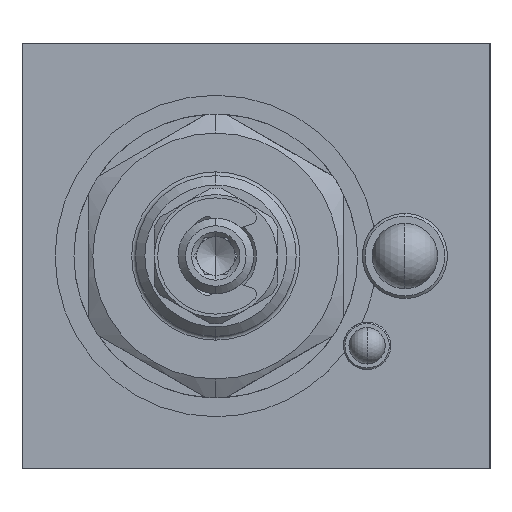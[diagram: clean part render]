
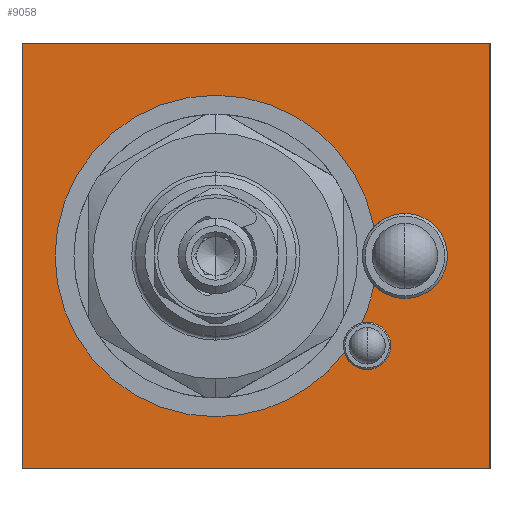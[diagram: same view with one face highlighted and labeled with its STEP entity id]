
A CAD part, left-side view. The second image highlights one B-rep face of the part: STEP entity #9058.
In plain terms, the highlighted planar face has unit normal (-1, 0, 0).
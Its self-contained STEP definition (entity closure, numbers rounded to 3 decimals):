
#179 = VERTEX_POINT ( 'NONE', #7887 ) ;
#244 = EDGE_CURVE ( 'NONE', #7691, #1845, #16567, .T. ) ;
#663 = CARTESIAN_POINT ( 'NONE',  ( 0., -24.75, -22.5 ) ) ;
#801 = CIRCLE ( 'NONE', #4471, 17. ) ;
#817 = CARTESIAN_POINT ( 'NONE',  ( 0., -9.35, -10.2 ) ) ;
#844 = VERTEX_POINT ( 'NONE', #2666 ) ;
#1023 = CARTESIAN_POINT ( 'NONE',  ( 0., -15.75, 0. ) ) ;
#1039 = EDGE_CURVE ( 'NONE', #12304, #12373, #12468, .T. ) ;
#1060 = DIRECTION ( 'NONE',  ( -1., 0., 0. ) ) ;
#1146 = DIRECTION ( 'NONE',  ( -1., 0., 0. ) ) ;
#1174 = DIRECTION ( 'NONE',  ( 0., 0., 1. ) ) ;
#1512 = CARTESIAN_POINT ( 'NONE',  ( 0., -12.469, -3.08 ) ) ;
#1530 = EDGE_CURVE ( 'NONE', #2289, #12304, #7897, .T. ) ;
#1692 = CIRCLE ( 'NONE', #6043, 2.5 ) ;
#1845 = VERTEX_POINT ( 'NONE', #6510 ) ;
#1938 = DIRECTION ( 'NONE',  ( 0., 0., 1. ) ) ;
#2112 = CARTESIAN_POINT ( 'NONE',  ( 0., -12.469, 3.08 ) ) ;
#2131 = DIRECTION ( 'NONE',  ( 0., 0., 1. ) ) ;
#2193 = DIRECTION ( 'NONE',  ( -1., 0., 0. ) ) ;
#2265 = VERTEX_POINT ( 'NONE', #7962 ) ;
#2289 = VERTEX_POINT ( 'NONE', #13359 ) ;
#2313 = CARTESIAN_POINT ( 'NONE',  ( 0., 24.75, -22.5 ) ) ;
#2370 = CARTESIAN_POINT ( 'NONE',  ( 0., -15.75, 0. ) ) ;
#2383 = CARTESIAN_POINT ( 'NONE',  ( 0., 24.75, 22.5 ) ) ;
#2522 = ORIENTED_EDGE ( 'NONE', *, *, #5280, .F. ) ;
#2666 = CARTESIAN_POINT ( 'NONE',  ( 0., -11.75, -7. ) ) ;
#2855 = ORIENTED_EDGE ( 'NONE', *, *, #6080, .F. ) ;
#2883 = VERTEX_POINT ( 'NONE', #14818 ) ;
#3132 = ORIENTED_EDGE ( 'NONE', *, *, #16430, .F. ) ;
#3369 = AXIS2_PLACEMENT_3D ( 'NONE', #12280, #12149, #6752 ) ;
#3382 = PLANE ( 'NONE',  #16187 ) ;
#3438 = VECTOR ( 'NONE', #7776, 1000. ) ;
#3817 = EDGE_CURVE ( 'NONE', #11186, #11483, #11941, .T. ) ;
#3977 = AXIS2_PLACEMENT_3D ( 'NONE', #5910, #5565, #4252 ) ;
#4252 = DIRECTION ( 'NONE',  ( 0., 0., 1. ) ) ;
#4275 = AXIS2_PLACEMENT_3D ( 'NONE', #2370, #1146, #13547 ) ;
#4300 = LINE ( 'NONE', #10409, #3438 ) ;
#4398 = EDGE_CURVE ( 'NONE', #12373, #14799, #17047, .T. ) ;
#4400 = CARTESIAN_POINT ( 'NONE',  ( 0., -24.75, 22.5 ) ) ;
#4449 = CARTESIAN_POINT ( 'NONE',  ( 0., 4.25, 0. ) ) ;
#4471 = AXIS2_PLACEMENT_3D ( 'NONE', #12989, #13341, #15799 ) ;
#4476 = DIRECTION ( 'NONE',  ( -1., 0., 0. ) ) ;
#5034 = EDGE_CURVE ( 'NONE', #11427, #2289, #801, .T. ) ;
#5127 = ORIENTED_EDGE ( 'NONE', *, *, #244, .F. ) ;
#5148 = EDGE_CURVE ( 'NONE', #1845, #11427, #9170, .T. ) ;
#5280 = EDGE_CURVE ( 'NONE', #11483, #7691, #11356, .T. ) ;
#5483 = VECTOR ( 'NONE', #5600, 1000. ) ;
#5538 = EDGE_CURVE ( 'NONE', #844, #11186, #7407, .T. ) ;
#5565 = DIRECTION ( 'NONE',  ( -1., 0., 0. ) ) ;
#5600 = DIRECTION ( 'NONE',  ( 0., 0., -1. ) ) ;
#5616 = EDGE_CURVE ( 'NONE', #11553, #2883, #4300, .T. ) ;
#5661 = AXIS2_PLACEMENT_3D ( 'NONE', #7936, #7813, #7568 ) ;
#5667 = EDGE_CURVE ( 'NONE', #2265, #11553, #5933, .T. ) ;
#5677 = ORIENTED_EDGE ( 'NONE', *, *, #3817, .F. ) ;
#5691 = CARTESIAN_POINT ( 'NONE',  ( 0., -11.216, -7.058 ) ) ;
#5910 = CARTESIAN_POINT ( 'NONE',  ( 0., -15.75, 0. ) ) ;
#5933 = LINE ( 'NONE', #4400, #5483 ) ;
#6043 = AXIS2_PLACEMENT_3D ( 'NONE', #13292, #12956, #12925 ) ;
#6080 = EDGE_CURVE ( 'NONE', #2883, #179, #15818, .T. ) ;
#6510 = CARTESIAN_POINT ( 'NONE',  ( 0., -15.75, 4.5 ) ) ;
#6752 = DIRECTION ( 'NONE',  ( 0., 0., 1. ) ) ;
#6891 = AXIS2_PLACEMENT_3D ( 'NONE', #17381, #17325, #17265 ) ;
#7407 = CIRCLE ( 'NONE', #3369, 2.5 ) ;
#7568 = DIRECTION ( 'NONE',  ( 0., 0., 1. ) ) ;
#7691 = VERTEX_POINT ( 'NONE', #9652 ) ;
#7776 = DIRECTION ( 'NONE',  ( 0., 1., 0. ) ) ;
#7803 = ORIENTED_EDGE ( 'NONE', *, *, #5034, .F. ) ;
#7813 = DIRECTION ( 'NONE',  ( -1., 0., 0. ) ) ;
#7887 = CARTESIAN_POINT ( 'NONE',  ( 0., 24.75, 22.5 ) ) ;
#7897 = CIRCLE ( 'NONE', #11340, 17. ) ;
#7936 = CARTESIAN_POINT ( 'NONE',  ( 0., -11.75, -9.5 ) ) ;
#7962 = CARTESIAN_POINT ( 'NONE',  ( 0., -24.75, 22.5 ) ) ;
#8092 = VECTOR ( 'NONE', #16409, 1000. ) ;
#8111 = LINE ( 'NONE', #16315, #8092 ) ;
#9046 = CARTESIAN_POINT ( 'NONE',  ( 0., -11.75, -12. ) ) ;
#9058 = ADVANCED_FACE ( 'NONE', ( #15707, #15745 ), #3382, .T. ) ;
#9170 = CIRCLE ( 'NONE', #4275, 4.5 ) ;
#9202 = CARTESIAN_POINT ( 'NONE',  ( 0., 4.25, -17. ) ) ;
#9296 = DIRECTION ( 'NONE',  ( -1., 0., 0. ) ) ;
#9437 = CARTESIAN_POINT ( 'NONE',  ( 0., 4.25, 0. ) ) ;
#9542 = DIRECTION ( 'NONE',  ( 0., 0., 1. ) ) ;
#9652 = CARTESIAN_POINT ( 'NONE',  ( 0., -15.75, -4.5 ) ) ;
#10409 = CARTESIAN_POINT ( 'NONE',  ( 0., -24.75, -22.5 ) ) ;
#10791 = EDGE_LOOP ( 'NONE', ( #15906, #15982, #10870, #7803, #17512, #5127, #2522, #5677, #15004, #11345 ) ) ;
#10870 = ORIENTED_EDGE ( 'NONE', *, *, #1530, .F. ) ;
#10934 = VECTOR ( 'NONE', #1938, 1000. ) ;
#11186 = VERTEX_POINT ( 'NONE', #5691 ) ;
#11340 = AXIS2_PLACEMENT_3D ( 'NONE', #9437, #9296, #9542 ) ;
#11345 = ORIENTED_EDGE ( 'NONE', *, *, #14787, .F. ) ;
#11356 = CIRCLE ( 'NONE', #3977, 4.5 ) ;
#11357 = ORIENTED_EDGE ( 'NONE', *, *, #5616, .F. ) ;
#11427 = VERTEX_POINT ( 'NONE', #2112 ) ;
#11438 = ORIENTED_EDGE ( 'NONE', *, *, #5667, .F. ) ;
#11483 = VERTEX_POINT ( 'NONE', #1512 ) ;
#11553 = VERTEX_POINT ( 'NONE', #663 ) ;
#11941 = CIRCLE ( 'NONE', #6891, 17. ) ;
#12140 = AXIS2_PLACEMENT_3D ( 'NONE', #4449, #4476, #13516 ) ;
#12149 = DIRECTION ( 'NONE',  ( -1., 0., 0. ) ) ;
#12280 = CARTESIAN_POINT ( 'NONE',  ( 0., -11.75, -9.5 ) ) ;
#12304 = VERTEX_POINT ( 'NONE', #9202 ) ;
#12373 = VERTEX_POINT ( 'NONE', #817 ) ;
#12468 = CIRCLE ( 'NONE', #12140, 17. ) ;
#12925 = DIRECTION ( 'NONE',  ( 0., 0., 1. ) ) ;
#12956 = DIRECTION ( 'NONE',  ( -1., 0., 0. ) ) ;
#12986 = AXIS2_PLACEMENT_3D ( 'NONE', #1023, #1060, #1174 ) ;
#12989 = CARTESIAN_POINT ( 'NONE',  ( 0., 4.25, 0. ) ) ;
#13292 = CARTESIAN_POINT ( 'NONE',  ( 0., -11.75, -9.5 ) ) ;
#13341 = DIRECTION ( 'NONE',  ( -1., 0., 0. ) ) ;
#13359 = CARTESIAN_POINT ( 'NONE',  ( 0., 4.25, 17. ) ) ;
#13516 = DIRECTION ( 'NONE',  ( 0., 0., 1. ) ) ;
#13547 = DIRECTION ( 'NONE',  ( 0., 0., 1. ) ) ;
#14787 = EDGE_CURVE ( 'NONE', #14799, #844, #1692, .T. ) ;
#14799 = VERTEX_POINT ( 'NONE', #9046 ) ;
#14818 = CARTESIAN_POINT ( 'NONE',  ( 0., 24.75, -22.5 ) ) ;
#15004 = ORIENTED_EDGE ( 'NONE', *, *, #5538, .F. ) ;
#15707 = FACE_BOUND ( 'NONE', #10791, .T. ) ;
#15745 = FACE_OUTER_BOUND ( 'NONE', #16745, .T. ) ;
#15799 = DIRECTION ( 'NONE',  ( 0., 0., 1. ) ) ;
#15818 = LINE ( 'NONE', #2383, #10934 ) ;
#15906 = ORIENTED_EDGE ( 'NONE', *, *, #4398, .F. ) ;
#15982 = ORIENTED_EDGE ( 'NONE', *, *, #1039, .F. ) ;
#16187 = AXIS2_PLACEMENT_3D ( 'NONE', #2313, #2193, #2131 ) ;
#16315 = CARTESIAN_POINT ( 'NONE',  ( 0., -24.75, 22.5 ) ) ;
#16409 = DIRECTION ( 'NONE',  ( 0., -1., 0. ) ) ;
#16430 = EDGE_CURVE ( 'NONE', #179, #2265, #8111, .T. ) ;
#16567 = CIRCLE ( 'NONE', #12986, 4.5 ) ;
#16745 = EDGE_LOOP ( 'NONE', ( #11357, #11438, #3132, #2855 ) ) ;
#17047 = CIRCLE ( 'NONE', #5661, 2.5 ) ;
#17265 = DIRECTION ( 'NONE',  ( 0., 0., 1. ) ) ;
#17325 = DIRECTION ( 'NONE',  ( -1., 0., 0. ) ) ;
#17381 = CARTESIAN_POINT ( 'NONE',  ( 0., 4.25, 0. ) ) ;
#17512 = ORIENTED_EDGE ( 'NONE', *, *, #5148, .F. ) ;
